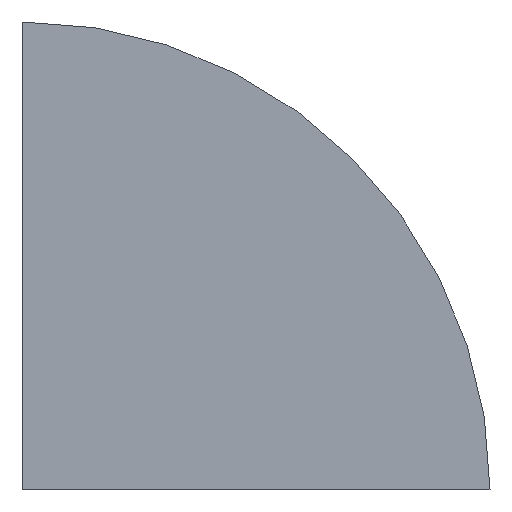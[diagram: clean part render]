
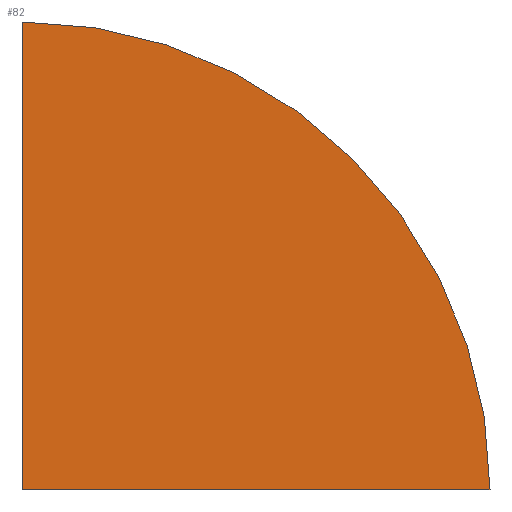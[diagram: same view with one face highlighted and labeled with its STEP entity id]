
A CAD part, front view. The second image highlights one B-rep face of the part: STEP entity #82.
In plain terms, the highlighted planar face has unit normal (0, -1, 0).
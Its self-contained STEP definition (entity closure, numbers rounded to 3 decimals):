
#51=CARTESIAN_POINT('Axis2P3D Location',(0.,0.,0.)) ;
#56=CARTESIAN_POINT('Line Origine',(54.5,0.,0.)) ;
#60=CARTESIAN_POINT('Vertex',(0.,0.,0.)) ;
#62=CARTESIAN_POINT('Vertex',(109.,0.,0.)) ;
#65=CARTESIAN_POINT('Axis2P3D Location',(0.,0.,0.)) ;
#69=CARTESIAN_POINT('Vertex',(0.,0.,109.)) ;
#72=CARTESIAN_POINT('Line Origine',(0.,0.,54.5)) ;
#52=DIRECTION('Axis2P3D Direction',(0.,-1.,0.)) ;
#53=DIRECTION('Axis2P3D XDirection',(1.,0.,0.)) ;
#57=DIRECTION('Vector Direction',(1.,0.,0.)) ;
#66=DIRECTION('Axis2P3D Direction',(0.,-1.,0.)) ;
#73=DIRECTION('Vector Direction',(0.,0.,1.)) ;
#54=AXIS2_PLACEMENT_3D('Plane Axis2P3D',#51,#52,#53) ;
#67=AXIS2_PLACEMENT_3D('Circle Axis2P3D',#65,#66,$) ;
#78=ORIENTED_EDGE('',*,*,#64,.T.) ;
#79=ORIENTED_EDGE('',*,*,#71,.T.) ;
#80=ORIENTED_EDGE('',*,*,#76,.F.) ;
#58=VECTOR('Line Direction',#57,1.) ;
#74=VECTOR('Line Direction',#73,1.) ;
#82=ADVANCED_FACE('PartBody',(#81),#55,.T.) ;
#68=CIRCLE('generated circle',#67,109.) ;
#64=EDGE_CURVE('',#61,#63,#59,.T.) ;
#71=EDGE_CURVE('',#63,#70,#68,.T.) ;
#76=EDGE_CURVE('',#61,#70,#75,.T.) ;
#77=EDGE_LOOP('',(#78,#79,#80)) ;
#81=FACE_OUTER_BOUND('',#77,.T.) ;
#59=LINE('Line',#56,#58) ;
#75=LINE('Line',#72,#74) ;
#55=PLANE('',#54) ;
#61=VERTEX_POINT('',#60) ;
#63=VERTEX_POINT('',#62) ;
#70=VERTEX_POINT('',#69) ;
